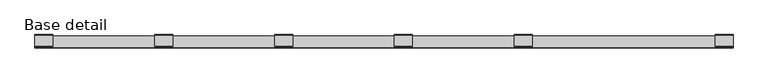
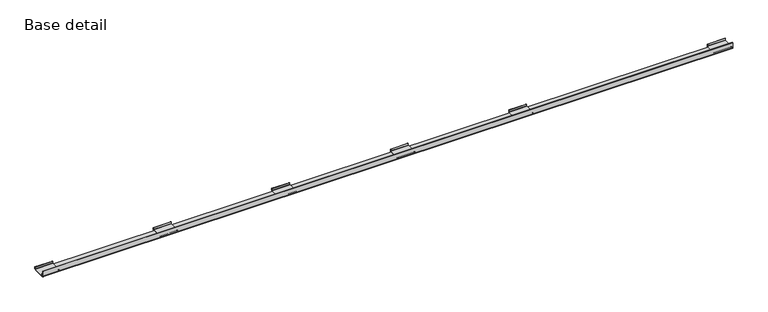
"""IFC4 building model written with IfcOpenShell, lengths in millimetres: beam geometry, TI-H-AI1_1_Base detail_BEAM : Base detail."""

from ifc_helpers import new_model, si_unit, point, frame, frame_2d, origin, place, context, project, spatial, polyline, circle_curve, trimmed, segment, composite_curve, outline, extrude, source, transform, mapped, element, save


def base_detail_bd736647(model_context):
    return source(origin(), model_context, "Body", "SweptSolid", [
        extrude(outline(composite_curve([segment(polyline([(-12.0, 18.0), (-12.0, 4.0)]), True, "CONTINUOUS"), segment(trimmed(circle_curve(frame_2d((-16.0, 4.0)), 4.0), [point((-12.0, 4.0))], [point((-16.0, 0.0))], False, "CARTESIAN"), True, "CONTINUOUS"), segment(polyline([(-16.0, 0.0), (-108.0, 0.0)]), True, "CONTINUOUS"), segment(trimmed(circle_curve(frame_2d((-108.0, 4.0)), 4.0), [point((-108.0, 0.0))], [point((-112.0, 4.0))], False, "CARTESIAN"), True, "CONTINUOUS"), segment(polyline([(-112.0, 4.0), (-112.0, 18.0), (-110.0, 18.0), (-110.0, 4.0)]), True, "CONTINUOUS"), segment(trimmed(circle_curve(frame_2d((-108.0, 4.0)), 2.0), [point((-110.0, 4.0))], [point((-108.0, 2.0))], True, "CARTESIAN"), True, "CONTINUOUS"), segment(polyline([(-108.0, 2.0), (-16.0, 2.0)]), True, "CONTINUOUS"), segment(trimmed(circle_curve(frame_2d((-16.0, 4.0)), 2.0), [point((-16.0, 2.0))], [point((-14.0, 4.0))], True, "CARTESIAN"), True, "CONTINUOUS"), segment(polyline([(-14.0, 4.0), (-14.0, 18.0), (-12.0, 18.0)]), True, "CONTINUOUS")], self_intersect=False)), frame((1037.5503472, 0.0, 0.0), z_axis=(1.0, 0.0, 0.0), x_axis=(0.0, 1.0, 0.0)), (0.0, 0.0, 1.0), 150.0),
        extrude(outline(composite_curve([segment(polyline([(-12.0, 18.0), (-12.0, 4.0)]), True, "CONTINUOUS"), segment(trimmed(circle_curve(frame_2d((-16.0, 4.0)), 4.0), [point((-12.0, 4.0))], [point((-16.0, 0.0))], False, "CARTESIAN"), True, "CONTINUOUS"), segment(polyline([(-16.0, 0.0), (-108.0, 0.0)]), True, "CONTINUOUS"), segment(trimmed(circle_curve(frame_2d((-108.0, 4.0)), 4.0), [point((-108.0, 0.0))], [point((-112.0, 4.0))], False, "CARTESIAN"), True, "CONTINUOUS"), segment(polyline([(-112.0, 4.0), (-112.0, 18.0), (-110.0, 18.0), (-110.0, 4.0)]), True, "CONTINUOUS"), segment(trimmed(circle_curve(frame_2d((-108.0, 4.0)), 2.0), [point((-110.0, 4.0))], [point((-108.0, 2.0))], True, "CARTESIAN"), True, "CONTINUOUS"), segment(polyline([(-108.0, 2.0), (-16.0, 2.0)]), True, "CONTINUOUS"), segment(trimmed(circle_curve(frame_2d((-16.0, 4.0)), 2.0), [point((-16.0, 2.0))], [point((-14.0, 4.0))], True, "CARTESIAN"), True, "CONTINUOUS"), segment(polyline([(-14.0, 4.0), (-14.0, 18.0), (-12.0, 18.0)]), True, "CONTINUOUS")], self_intersect=False)), frame((37.5503472, 0.0, 0.0), z_axis=(1.0, 0.0, 0.0), x_axis=(0.0, 1.0, 0.0)), (0.0, 0.0, 1.0), 150.0),
        extrude(outline(composite_curve([segment(polyline([(-12.0, 18.0), (-12.0, 4.0)]), True, "CONTINUOUS"), segment(trimmed(circle_curve(frame_2d((-16.0, 4.0)), 4.0), [point((-12.0, 4.0))], [point((-16.0, 0.0))], False, "CARTESIAN"), True, "CONTINUOUS"), segment(polyline([(-16.0, 0.0), (-108.0, 0.0)]), True, "CONTINUOUS"), segment(trimmed(circle_curve(frame_2d((-108.0, 4.0)), 4.0), [point((-108.0, 0.0))], [point((-112.0, 4.0))], False, "CARTESIAN"), True, "CONTINUOUS"), segment(polyline([(-112.0, 4.0), (-112.0, 18.0), (-110.0, 18.0), (-110.0, 4.0)]), True, "CONTINUOUS"), segment(trimmed(circle_curve(frame_2d((-108.0, 4.0)), 2.0), [point((-110.0, 4.0))], [point((-108.0, 2.0))], True, "CARTESIAN"), True, "CONTINUOUS"), segment(polyline([(-108.0, 2.0), (-16.0, 2.0)]), True, "CONTINUOUS"), segment(trimmed(circle_curve(frame_2d((-16.0, 4.0)), 2.0), [point((-16.0, 2.0))], [point((-14.0, 4.0))], True, "CARTESIAN"), True, "CONTINUOUS"), segment(polyline([(-14.0, 4.0), (-14.0, 18.0), (-12.0, 18.0)]), True, "CONTINUOUS")], self_intersect=False)), frame((-962.4496528, 0.0, 0.0), z_axis=(1.0, 0.0, 0.0), x_axis=(0.0, 1.0, 0.0)), (0.0, 0.0, 1.0), 150.0),
        extrude(outline(composite_curve([segment(polyline([(-12.0, 18.0), (-12.0, 4.0)]), True, "CONTINUOUS"), segment(trimmed(circle_curve(frame_2d((-16.0, 4.0)), 4.0), [point((-12.0, 4.0))], [point((-16.0, 0.0))], False, "CARTESIAN"), True, "CONTINUOUS"), segment(polyline([(-16.0, 0.0), (-108.0, 0.0)]), True, "CONTINUOUS"), segment(trimmed(circle_curve(frame_2d((-108.0, 4.0)), 4.0), [point((-108.0, 0.0))], [point((-112.0, 4.0))], False, "CARTESIAN"), True, "CONTINUOUS"), segment(polyline([(-112.0, 4.0), (-112.0, 18.0), (-110.0, 18.0), (-110.0, 4.0)]), True, "CONTINUOUS"), segment(trimmed(circle_curve(frame_2d((-108.0, 4.0)), 2.0), [point((-110.0, 4.0))], [point((-108.0, 2.0))], True, "CARTESIAN"), True, "CONTINUOUS"), segment(polyline([(-108.0, 2.0), (-16.0, 2.0)]), True, "CONTINUOUS"), segment(trimmed(circle_curve(frame_2d((-16.0, 4.0)), 2.0), [point((-16.0, 2.0))], [point((-14.0, 4.0))], True, "CARTESIAN"), True, "CONTINUOUS"), segment(polyline([(-14.0, 4.0), (-14.0, 18.0), (-12.0, 18.0)]), True, "CONTINUOUS")], self_intersect=False)), frame((2712.8, 0.0, 0.0), z_axis=(1.0, 0.0, 0.0), x_axis=(0.0, 1.0, 0.0)), (0.0, 0.0, 1.0), 150.0),
        extrude(outline(composite_curve([segment(polyline([(-12.0, 18.0), (-12.0, 4.0)]), True, "CONTINUOUS"), segment(trimmed(circle_curve(frame_2d((-16.0, 4.0)), 4.0), [point((-12.0, 4.0))], [point((-16.0, 0.0))], False, "CARTESIAN"), True, "CONTINUOUS"), segment(polyline([(-16.0, 0.0), (-108.0, 0.0)]), True, "CONTINUOUS"), segment(trimmed(circle_curve(frame_2d((-108.0, 4.0)), 4.0), [point((-108.0, 0.0))], [point((-112.0, 4.0))], False, "CARTESIAN"), True, "CONTINUOUS"), segment(polyline([(-112.0, 4.0), (-112.0, 18.0), (-110.0, 18.0), (-110.0, 4.0)]), True, "CONTINUOUS"), segment(trimmed(circle_curve(frame_2d((-108.0, 4.0)), 2.0), [point((-110.0, 4.0))], [point((-108.0, 2.0))], True, "CARTESIAN"), True, "CONTINUOUS"), segment(polyline([(-108.0, 2.0), (-16.0, 2.0)]), True, "CONTINUOUS"), segment(trimmed(circle_curve(frame_2d((-16.0, 4.0)), 2.0), [point((-16.0, 2.0))], [point((-14.0, 4.0))], True, "CARTESIAN"), True, "CONTINUOUS"), segment(polyline([(-14.0, 4.0), (-14.0, 18.0), (-12.0, 18.0)]), True, "CONTINUOUS")], self_intersect=False)), frame((-1962.4496528, 0.0, 0.0), z_axis=(1.0, 0.0, 0.0), x_axis=(0.0, 1.0, 0.0)), (0.0, 0.0, 1.0), 150.0),
        extrude(outline(composite_curve([segment(polyline([(-12.0, 18.0), (-12.0, 4.0)]), True, "CONTINUOUS"), segment(trimmed(circle_curve(frame_2d((-16.0, 4.0)), 4.0), [point((-12.0, 4.0))], [point((-16.0, 0.0))], False, "CARTESIAN"), True, "CONTINUOUS"), segment(polyline([(-16.0, 0.0), (-108.0, 0.0)]), True, "CONTINUOUS"), segment(trimmed(circle_curve(frame_2d((-108.0, 4.0)), 4.0), [point((-108.0, 0.0))], [point((-112.0, 4.0))], False, "CARTESIAN"), True, "CONTINUOUS"), segment(polyline([(-112.0, 4.0), (-112.0, 18.0), (-110.0, 18.0), (-110.0, 4.0)]), True, "CONTINUOUS"), segment(trimmed(circle_curve(frame_2d((-108.0, 4.0)), 2.0), [point((-110.0, 4.0))], [point((-108.0, 2.0))], True, "CARTESIAN"), True, "CONTINUOUS"), segment(polyline([(-108.0, 2.0), (-16.0, 2.0)]), True, "CONTINUOUS"), segment(trimmed(circle_curve(frame_2d((-16.0, 4.0)), 2.0), [point((-16.0, 2.0))], [point((-14.0, 4.0))], True, "CARTESIAN"), True, "CONTINUOUS"), segment(polyline([(-14.0, 4.0), (-14.0, 18.0), (-12.0, 18.0)]), True, "CONTINUOUS")], self_intersect=False)), frame((-2962.4496528, 0.0, 0.0), z_axis=(1.0, 0.0, 0.0), x_axis=(0.0, 1.0, 0.0)), (0.0, 0.0, 1.0), 150.0),
        extrude(outline(composite_curve([segment(trimmed(circle_curve(frame_2d((-121.5, 1.5)), 3.0), [point((-121.5, -1.5))], [point((-124.5, 1.5))], False, "CARTESIAN"), True, "CONTINUOUS"), segment(polyline([(-124.5, 1.5), (-124.5, 48.5), (-123.0, 48.5), (-123.0, 1.5)]), True, "CONTINUOUS"), segment(trimmed(circle_curve(frame_2d((-121.5, 1.5)), 1.5), [point((-123.0, 1.5))], [point((-121.5, 0.0))], True, "CARTESIAN"), True, "CONTINUOUS"), segment(polyline([(-121.5, 0.0), (-24.5, 0.0), (-24.5, -1.5), (-121.5, -1.5)]), True, "CONTINUOUS")], self_intersect=False)), frame((-2962.4496528, 0.0, 0.0), z_axis=(1.0, 0.0, 0.0), x_axis=(0.0, 1.0, 0.0)), (0.0, 0.0, 1.0), 5825.2496528),
    ])


if __name__ == "__main__":
    model = new_model("IFC4")
    model_context = context("Model", 3, world=origin())
    ifc_project = project(units=[si_unit("LENGTHUNIT", "METRE", prefix="MILLI")], contexts=[model_context])
    site = spatial("IfcSite", under=ifc_project)
    building = spatial("IfcBuilding", under=site)
    placement = place(None, origin())
    base_detail_shape = base_detail_bd736647(model_context)
    element("IfcBeam", 1, ObjectType="TI-H-AI1_1_Base detail_BEAM : Base detail", at=placement, inside=building, context=model_context, shape_type="MappedRepresentation", body=[
        mapped(base_detail_shape, transform((0.0, 0.0, 0.0), x_axis=(1.0, 0.0, 0.0), y_axis=(0.0, 1.0, 0.0), z_axis=(0.0, 0.0, 1.0))),
    ])
    save(model, "model.ifc")
